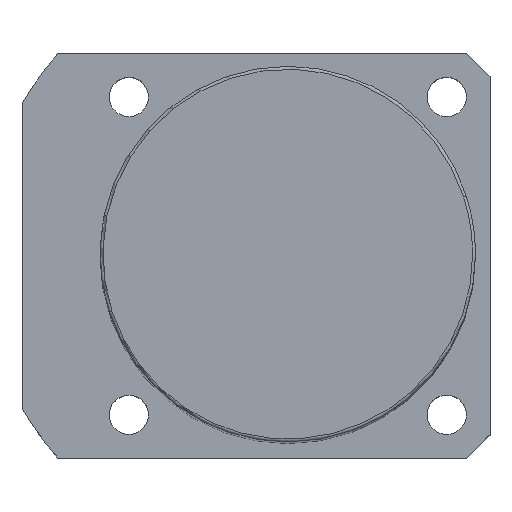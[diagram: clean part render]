
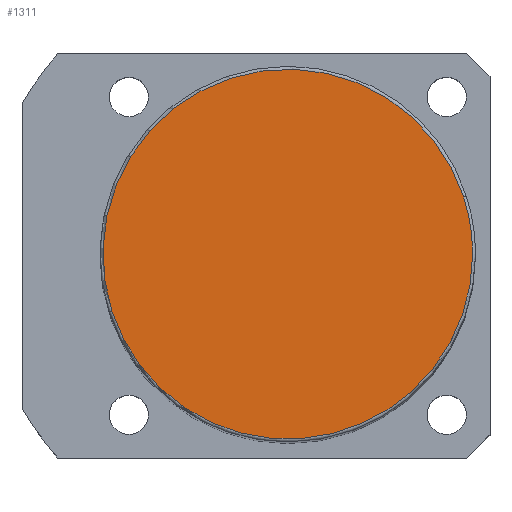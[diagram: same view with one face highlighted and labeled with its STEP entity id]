
A CAD part, top view. The second image highlights one B-rep face of the part: STEP entity #1311.
In plain terms, the highlighted planar face has unit normal (0, 0, 1).
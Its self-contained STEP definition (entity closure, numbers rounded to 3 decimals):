
#1244=CARTESIAN_POINT('',(30.434,9.889,186.0));
#1245=VERTEX_POINT('',#1244);
#1263=CARTESIAN_POINT('',(-30.434,-9.889,186.0));
#1264=VERTEX_POINT('',#1263);
#1272=CARTESIAN_POINT('',(0.0,0.0,186.0));
#1273=DIRECTION('',(0.0,0.0,1.0));
#1274=DIRECTION('',(1.0,0.0,0.0));
#1275=AXIS2_PLACEMENT_3D('',#1272,#1273,#1274);
#1276=CIRCLE('',#1275,32.0);
#1277=EDGE_CURVE('no 1841',#1245,#1264,#1276,.T.);
#1287=CARTESIAN_POINT('',(32.0,0.0,186.0));
#1288=VERTEX_POINT('',#1287);
#1289=CARTESIAN_POINT('',(0.0,0.0,186.0));
#1290=DIRECTION('',(0.0,0.0,1.0));
#1291=DIRECTION('',(1.0,0.0,0.0));
#1292=AXIS2_PLACEMENT_3D('',#1289,#1290,#1291);
#1293=CIRCLE('',#1292,32.0);
#1294=EDGE_CURVE('no 1850',#1288,#1245,#1293,.T.);
#1295=ORIENTED_EDGE('',*,*,#1294,.T.);
#1296=ORIENTED_EDGE('',*,*,#1277,.T.);
#1297=CARTESIAN_POINT('',(0.0,0.0,186.0));
#1298=DIRECTION('',(0.0,0.0,1.0));
#1299=DIRECTION('',(1.0,0.0,0.0));
#1300=AXIS2_PLACEMENT_3D('',#1297,#1298,#1299);
#1301=CIRCLE('',#1300,32.0);
#1302=EDGE_CURVE('no 1856',#1264,#1288,#1301,.T.);
#1303=ORIENTED_EDGE('',*,*,#1302,.T.);
#1304=EDGE_LOOP('',(#1295,#1296,#1303));
#1305=FACE_OUTER_BOUND('',#1304,.T.);
#1306=CARTESIAN_POINT('',(0.0,0.0,186.0));
#1307=DIRECTION('',(0.0,0.0,1.0));
#1308=DIRECTION('',(1.0,0.0,0.0));
#1309=AXIS2_PLACEMENT_3D('',#1306,#1307,#1308);
#1310=PLANE('',#1309);
#1311=ADVANCED_FACE('no 1843',(#1305),#1310,.T.);
